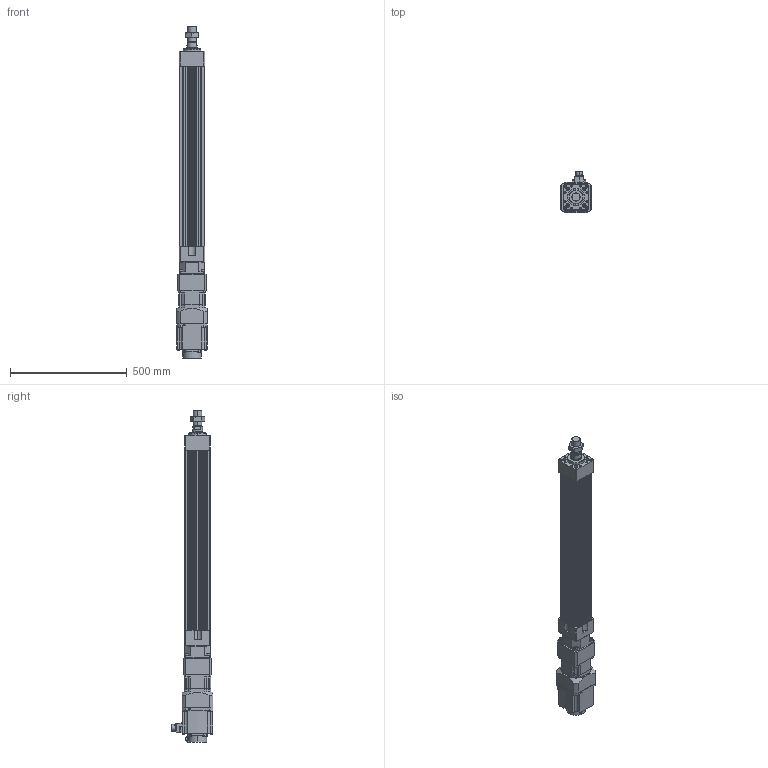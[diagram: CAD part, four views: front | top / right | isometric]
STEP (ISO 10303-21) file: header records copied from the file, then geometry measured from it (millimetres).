
FILE_DESCRIPTION (( 'STEP AP203' ), '1' );
FILE_NAME ('HES110NS(HS)-S600-W015G00-M.STEP', '2023-01-27T11:00:26', ( 'tms' ), ( '' ), 'SwSTEP 2.0', 'SolidWorks 2013', '' );
FILE_SCHEMA (( 'CONFIG_CONTROL_DESIGN' ));
Length unit declared in the file: millimetre
Products named in the file (8): HES110NS(HS)-S600-W015G00-M; AB115-003[HG-SR152]; HG-SR152; AB1151; HES110-S600-G120; P0401400706; M36X1.5P; HES110 ROD M ST600
Assembly tree (7 placements, depth 3):
  HES110NS(HS)-S600-W015G00-M
    HES110-S600-G120
    HES110 ROD M ST600
    M36X1.5P
    AB115-003[HG-SR152]
      AB1151
      P0401400706
    HG-SR152
Bounding box: 130 x 177.49 x 1421.5 mm (x, y, z)
Volume: 9006671 mm3; surface area: 1282940.7 mm2
Topology: 4 solids, 15 shells, 1202 faces, 3026 edges, 1951 vertices
Faces by surface type: plane 551, cylinder 537, cone 102, bspline 8, torus 4
Entity records: 37654 total; most frequent: CARTESIAN_POINT 7134, DIRECTION 6533, ORIENTED_EDGE 5960, EDGE_CURVE 2990, AXIS2_PLACEMENT_3D 2410, VERTEX_POINT 1951, VECTOR 1713, LINE 1713
